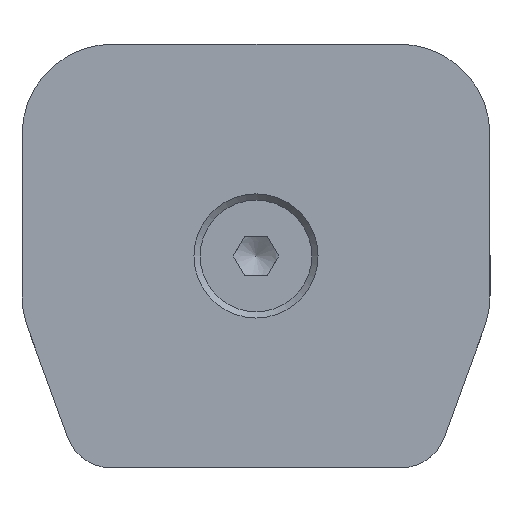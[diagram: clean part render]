
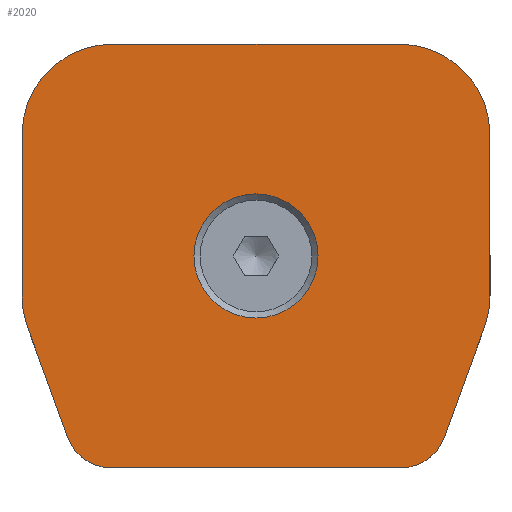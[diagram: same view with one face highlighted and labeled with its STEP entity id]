
A CAD part, top view. The second image highlights one B-rep face of the part: STEP entity #2020.
In plain terms, the highlighted planar face has unit normal (0, 0, 1).
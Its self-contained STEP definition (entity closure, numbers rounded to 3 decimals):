
#66=FACE_BOUND('',#392,.T.);
#133=CIRCLE('',#2162,6.3);
#135=CIRCLE('',#2166,9.2);
#137=CIRCLE('',#2170,9.2);
#139=CIRCLE('',#2174,4.7);
#141=CIRCLE('',#2178,4.7);
#143=CIRCLE('',#2182,9.2);
#145=CIRCLE('',#2186,9.2);
#270=FACE_OUTER_BOUND('',#391,.T.);
#391=EDGE_LOOP('',(#1740,#1741,#1742,#1743,#1744,#1745,#1746,#1747,#1748,
#1749,#1750,#1751));
#392=EDGE_LOOP('',(#1752));
#593=LINE('',#3207,#797);
#598=LINE('',#3221,#802);
#602=LINE('',#3233,#806);
#606=LINE('',#3245,#810);
#610=LINE('',#3257,#814);
#614=LINE('',#3269,#818);
#797=VECTOR('',#2621,29.1);
#802=VECTOR('',#2634,16.354);
#806=VECTOR('',#2646,11.926);
#810=VECTOR('',#2658,29.399);
#814=VECTOR('',#2670,11.926);
#818=VECTOR('',#2682,16.354);
#961=VERTEX_POINT('',#3200);
#963=VERTEX_POINT('',#3205);
#964=VERTEX_POINT('',#3206);
#967=VERTEX_POINT('',#3214);
#969=VERTEX_POINT('',#3220);
#971=VERTEX_POINT('',#3226);
#973=VERTEX_POINT('',#3232);
#975=VERTEX_POINT('',#3238);
#977=VERTEX_POINT('',#3244);
#979=VERTEX_POINT('',#3250);
#981=VERTEX_POINT('',#3256);
#983=VERTEX_POINT('',#3262);
#985=VERTEX_POINT('',#3268);
#1212=EDGE_CURVE('',#961,#961,#133,.T.);
#1214=EDGE_CURVE('',#963,#964,#593,.T.);
#1218=EDGE_CURVE('',#964,#967,#135,.T.);
#1221=EDGE_CURVE('',#967,#969,#598,.T.);
#1224=EDGE_CURVE('',#969,#971,#137,.T.);
#1227=EDGE_CURVE('',#971,#973,#602,.T.);
#1230=EDGE_CURVE('',#973,#975,#139,.T.);
#1233=EDGE_CURVE('',#975,#977,#606,.T.);
#1236=EDGE_CURVE('',#977,#979,#141,.T.);
#1239=EDGE_CURVE('',#979,#981,#610,.T.);
#1242=EDGE_CURVE('',#981,#983,#143,.T.);
#1245=EDGE_CURVE('',#983,#985,#614,.T.);
#1248=EDGE_CURVE('',#985,#963,#145,.T.);
#1740=ORIENTED_EDGE('',*,*,#1214,.F.);
#1741=ORIENTED_EDGE('',*,*,#1248,.F.);
#1742=ORIENTED_EDGE('',*,*,#1245,.F.);
#1743=ORIENTED_EDGE('',*,*,#1242,.F.);
#1744=ORIENTED_EDGE('',*,*,#1239,.F.);
#1745=ORIENTED_EDGE('',*,*,#1236,.F.);
#1746=ORIENTED_EDGE('',*,*,#1233,.F.);
#1747=ORIENTED_EDGE('',*,*,#1230,.F.);
#1748=ORIENTED_EDGE('',*,*,#1227,.F.);
#1749=ORIENTED_EDGE('',*,*,#1224,.F.);
#1750=ORIENTED_EDGE('',*,*,#1221,.F.);
#1751=ORIENTED_EDGE('',*,*,#1218,.F.);
#1752=ORIENTED_EDGE('',*,*,#1212,.T.);
#1914=PLANE('',#2189);
#2020=ADVANCED_FACE('',(#270,#66),#1914,.T.);
#2162=AXIS2_PLACEMENT_3D('',#3201,#2615,#2616);
#2166=AXIS2_PLACEMENT_3D('',#3215,#2627,#2628);
#2170=AXIS2_PLACEMENT_3D('',#3227,#2639,#2640);
#2174=AXIS2_PLACEMENT_3D('',#3239,#2651,#2652);
#2178=AXIS2_PLACEMENT_3D('',#3251,#2663,#2664);
#2182=AXIS2_PLACEMENT_3D('',#3263,#2675,#2676);
#2186=AXIS2_PLACEMENT_3D('',#3274,#2687,#2688);
#2189=AXIS2_PLACEMENT_3D('',#3277,#2693,#2694);
#2615=DIRECTION('center_axis',(0.,0.,-1.));
#2616=DIRECTION('ref_axis',(1.,0.,0.));
#2621=DIRECTION('',(1.,0.,0.));
#2627=DIRECTION('center_axis',(0.,0.,-1.));
#2628=DIRECTION('ref_axis',(1.,0.,0.));
#2634=DIRECTION('',(0.,-1.,0.));
#2639=DIRECTION('center_axis',(0.,0.,-1.));
#2640=DIRECTION('ref_axis',(0.94,-0.342,0.));
#2646=DIRECTION('',(-0.342,-0.94,0.));
#2651=DIRECTION('center_axis',(0.,0.,-1.));
#2652=DIRECTION('ref_axis',(0.,-1.,0.));
#2658=DIRECTION('',(-1.,0.,0.));
#2663=DIRECTION('center_axis',(0.,0.,-1.));
#2664=DIRECTION('ref_axis',(-0.94,-0.342,0.));
#2670=DIRECTION('',(-0.342,0.94,0.));
#2675=DIRECTION('center_axis',(0.,0.,-1.));
#2676=DIRECTION('ref_axis',(-1.,0.,0.));
#2682=DIRECTION('',(0.,1.,0.));
#2687=DIRECTION('center_axis',(0.,0.,-1.));
#2688=DIRECTION('ref_axis',(0.,1.,0.));
#2693=DIRECTION('center_axis',(0.,0.,1.));
#2694=DIRECTION('ref_axis',(1.,0.,0.));
#3200=CARTESIAN_POINT('',(6.584,-0.538,3.));
#3201=CARTESIAN_POINT('Origin',(0.284,-0.538,3.));
#3205=CARTESIAN_POINT('',(-14.266,20.962,3.));
#3206=CARTESIAN_POINT('',(14.834,20.962,3.));
#3207=CARTESIAN_POINT('',(14.834,20.962,3.));
#3214=CARTESIAN_POINT('',(24.034,11.762,3.));
#3215=CARTESIAN_POINT('Origin',(14.834,11.762,3.));
#3220=CARTESIAN_POINT('',(24.034,-4.592,3.));
#3221=CARTESIAN_POINT('',(24.034,-4.592,3.));
#3226=CARTESIAN_POINT('',(23.479,-7.738,3.));
#3227=CARTESIAN_POINT('Origin',(14.834,-4.592,3.));
#3232=CARTESIAN_POINT('',(19.4,-18.945,3.));
#3233=CARTESIAN_POINT('',(19.4,-18.945,3.));
#3238=CARTESIAN_POINT('',(14.983,-22.038,3.));
#3239=CARTESIAN_POINT('Origin',(14.983,-17.338,3.));
#3244=CARTESIAN_POINT('',(-14.416,-22.038,3.));
#3245=CARTESIAN_POINT('',(-14.416,-22.038,3.));
#3250=CARTESIAN_POINT('',(-18.833,-18.945,3.));
#3251=CARTESIAN_POINT('Origin',(-14.416,-17.338,3.));
#3256=CARTESIAN_POINT('',(-22.911,-7.738,3.));
#3257=CARTESIAN_POINT('',(-22.911,-7.738,3.));
#3262=CARTESIAN_POINT('',(-23.466,-4.592,3.));
#3263=CARTESIAN_POINT('Origin',(-14.266,-4.592,3.));
#3268=CARTESIAN_POINT('',(-23.466,11.762,3.));
#3269=CARTESIAN_POINT('',(-23.466,11.762,3.));
#3274=CARTESIAN_POINT('Origin',(-14.266,11.762,3.));
#3277=CARTESIAN_POINT('Origin',(0.284,-0.08,3.));
